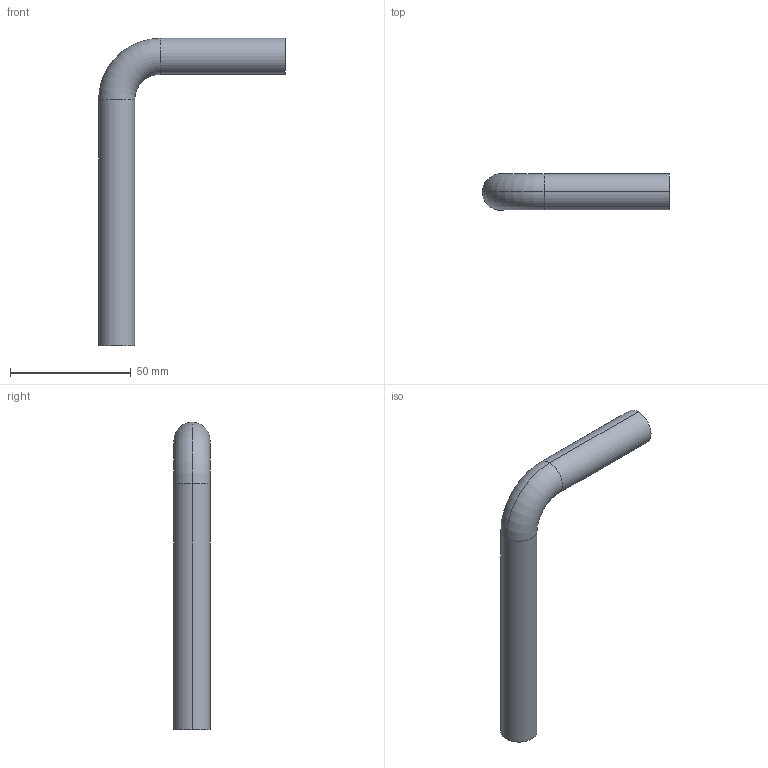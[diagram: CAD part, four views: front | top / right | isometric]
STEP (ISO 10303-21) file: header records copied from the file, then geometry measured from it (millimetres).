
FILE_DESCRIPTION(('OneSpaceDesigner STEP Export'),'2;1');
FILE_NAME('C1425 15x15.stp','2010-06-15T15:31:58',(''),(''),'OneSpace Designer STEP processor for AP214 (Solid Model)','OneSpace Modeling 15.00A 14-Mar-2007 (C) CoCreate Software GmbH','');
FILE_SCHEMA(('AUTOMOTIVE_DESIGN { 1 0 10303 214 1 1 1 1 }'));
Length unit declared in the file: millimetre
Products named in the file (2): C1425_15x15
Assembly tree (1 placements, depth 2):
  C1425_15x15
    C1425_15x15
Bounding box: 77.5 x 15 x 127.5 mm (x, y, z)
Volume: 11595.8 mm3; surface area: 15588.3 mm2
Topology: 1 solids, 1 shells, 14 faces, 30 edges, 18 vertices
Faces by surface type: cylinder 8, torus 4, plane 2
Entity records: 367 total; most frequent: ORIENTED_EDGE 60, DIRECTION 56, CARTESIAN_POINT 50, EDGE_CURVE 30, AXIS2_PLACEMENT_3D 24, VERTEX_POINT 18, EDGE_LOOP 16, CIRCLE 14
